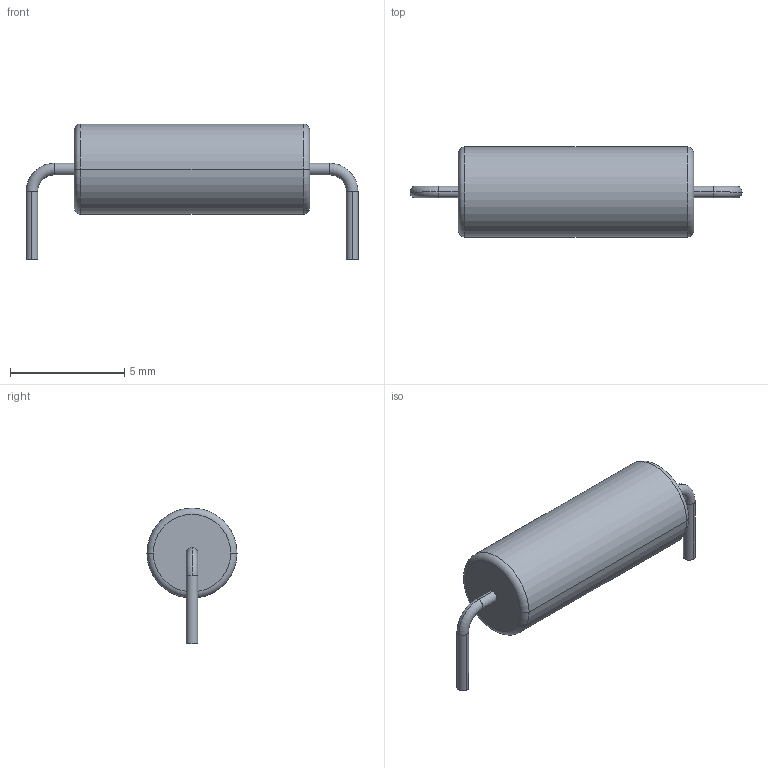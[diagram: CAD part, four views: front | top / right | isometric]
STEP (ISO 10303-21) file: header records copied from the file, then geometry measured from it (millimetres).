
FILE_DESCRIPTION (( 'STEP AP214' ), '1' );
FILE_NAME ( 'CAPAD1400W51L1028D393.STEP', '2021-10-06T06:48:59', ( '' ), ( '' ), '', '©2017 PCB Libraries, Inc.', '' );
FILE_SCHEMA (( 'AUTOMOTIVE_DESIGN' ));
Length unit declared in the file: millimetre
Products named in the file (1): CAPAD1400W51L1028D393
Bounding box: 14.51 x 3.94 x 5.94 mm (x, y, z)
Volume: 127.1 mm3; surface area: 166.7 mm2
Topology: 3 solids, 3 shells, 24 faces, 46 edges, 28 vertices
Faces by surface type: cylinder 10, torus 8, plane 6
Entity records: 742 total; most frequent: DIRECTION 132, CARTESIAN_POINT 99, ORIENTED_EDGE 92, AXIS2_PLACEMENT_3D 61, EDGE_CURVE 46, CIRCLE 36, VERTEX_POINT 28, STYLED_ITEM 28
